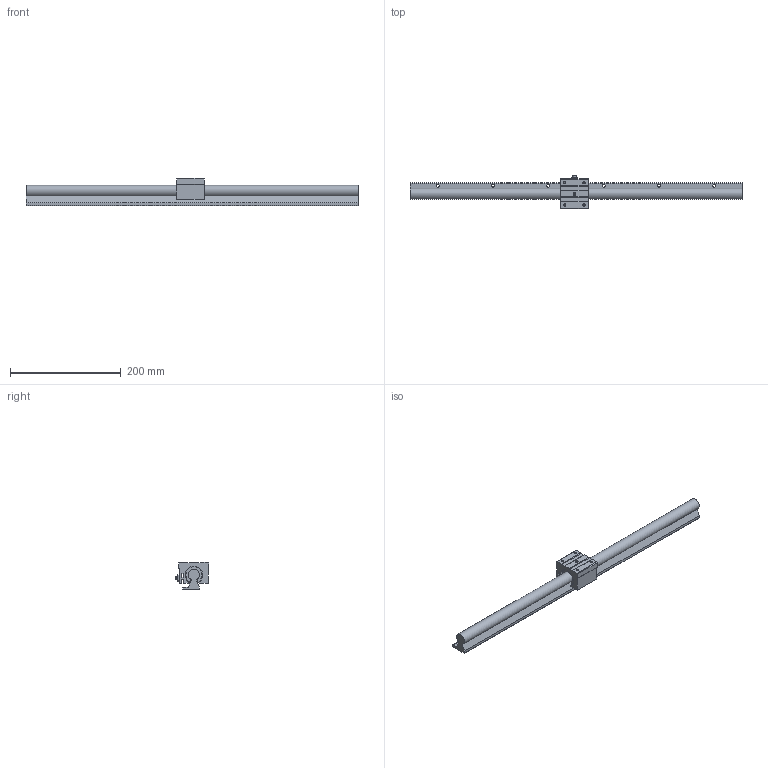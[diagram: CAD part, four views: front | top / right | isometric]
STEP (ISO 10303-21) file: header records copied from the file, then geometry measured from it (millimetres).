
FILE_DESCRIPTION((''),'2;1');
FILE_NAME('D:\製品 (図面)\カタログ用3D\リニアガイド関連\STEP形式\GTA(W)\GTA20.stp','2010-06-08T09:16:52',('Tsuchiya'),(''),'Autodesk Inventor 10','Autodesk Inventor 10','');
FILE_SCHEMA(('AUTOMOTIVE_DESIGN { 1 0 10303 214 1 1 1 1 }'));
Length unit declared in the file: millimetre
Products named in the file (3): GTA20; GTA201; GTA202
Assembly tree (2 placements, depth 2):
  GTA20
    GTA201
    GTA202
Bounding box: 600 x 61 x 50 mm (x, y, z)
Volume: 459206.7 mm3; surface area: 100603.6 mm2
Topology: 2 solids, 2 shells, 191 faces, 496 edges, 320 vertices
Faces by surface type: plane 113, cylinder 39, cone 21, bspline 10, torus 8
Full cylindrical faces by diameter (mm): 5.5 x6, 6 x2, 8.5 x6, 8.9 x6
Entity records: 5517 total; most frequent: CARTESIAN_POINT 1222, ORIENTED_EDGE 858, DIRECTION 842, EDGE_CURVE 429, AXIS2_PLACEMENT_3D 299, VERTEX_POINT 297, EDGE_LOOP 264, VECTOR 244
